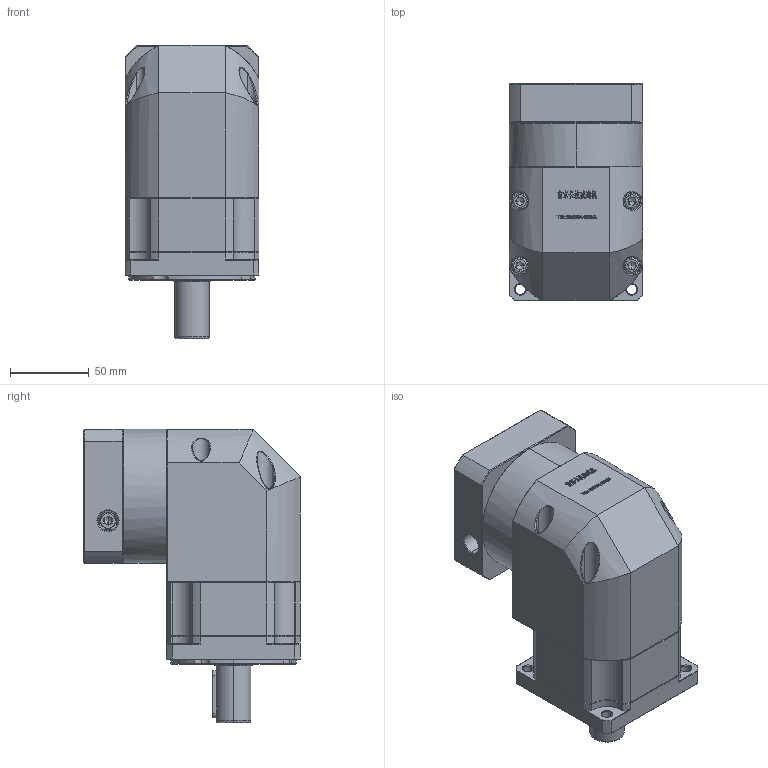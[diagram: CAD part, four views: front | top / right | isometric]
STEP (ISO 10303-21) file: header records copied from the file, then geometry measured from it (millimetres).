
FILE_DESCRIPTION (( 'STEP AP214' ), '1' );
FILE_NAME ('ZBR90-D22-L1-12.7-73-69.5X69.5-M6.step', '2022-05-07T15:12:01', ( '' ), ( 'Microsoft' ), 'SwSTEP 2.0', 'SolidWorks 2016', '' );
FILE_SCHEMA (( 'AUTOMOTIVE_DESIGN' ));
Length unit declared in the file: millimetre
Products named in the file (1): ZBR90-D22-L1-12.7-73-69.5X69.5-M6
Bounding box: 85 x 137.6 x 186 mm (x, y, z)
Volume: 1186307.7 mm3; surface area: 130067.3 mm2
Topology: 5 solids, 5 shells, 3003 faces, 7951 edges, 5082 vertices
Faces by surface type: plane 1577, bspline 603, cylinder 447, cone 350, torus 26
Entity records: 163232 total; most frequent: CARTESIAN_POINT 60663, ORIENTED_EDGE 15826, DIRECTION 12060, EDGE_CURVE 7913, LINE 5280, VECTOR 5280, VERTEX_POINT 5082, AXIS2_PLACEMENT_3D 3390
